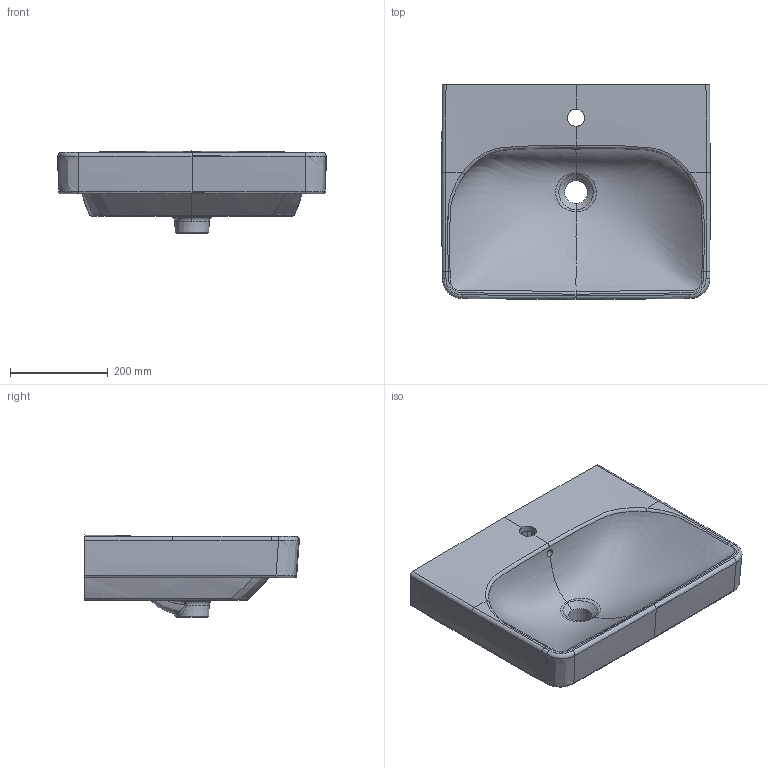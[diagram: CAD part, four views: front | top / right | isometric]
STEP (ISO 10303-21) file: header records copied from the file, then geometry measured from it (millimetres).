
FILE_DESCRIPTION(/* description */ (' PTC IGES file: 0107a.igs '),/* implementation_level */ '2;1');
FILE_NAME(/* name */ 'C:\Planerdaten\Export PLA\500.259.01.1\stp\500259.stp',/* time_stamp */ '2020-04-30T09:20:31+02:00',/* author */ ('JANAN'),/* organization */ ('Unknown'),/* preprocessor_version */ 'ST-DEVELOPER v16.13',/* originating_system */ 'Autodesk Inventor 2018',/* authorisation */ '');
FILE_SCHEMA (('AUTOMOTIVE_DESIGN { 1 0 10303 214 3 1 1 }'));
Products named in the file (1): WT Ge+SmyS B55 m/ÜLF m/HLo
Bounding box: 549.96 x 439.75 x 168 mm (x, y, z)
Volume: 12869263.6 mm3; surface area: 830116.4 mm2
Topology: 1 solids, 1 shells, 313 faces, 751 edges, 431 vertices
Faces by surface type: bspline 208, cylinder 44, plane 30, torus 19, sphere 7, cone 5
Full cylindrical faces by diameter (mm): 15 x1, 35 x1, 47 x1
Entity records: 83345 total; most frequent: CARTESIAN_POINT 77047, ORIENTED_EDGE 1474, DIRECTION 851, EDGE_CURVE 737, VERTEX_POINT 429, AXIS2_PLACEMENT_3D 375, B_SPLINE_CURVE_WITH_KNOTS 367, EDGE_LOOP 320
